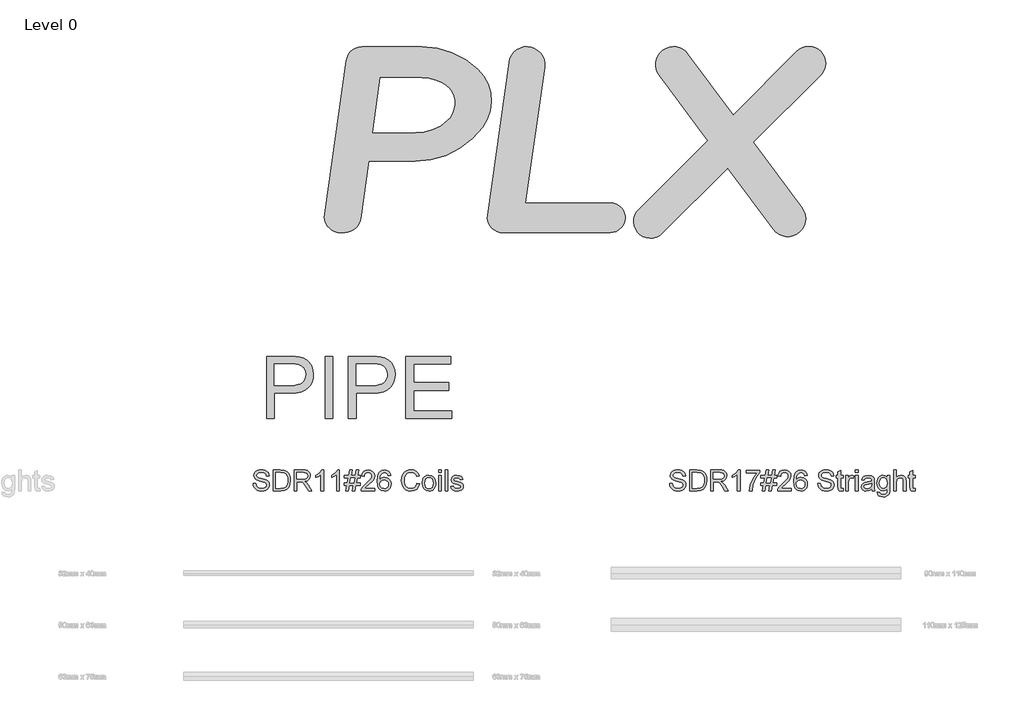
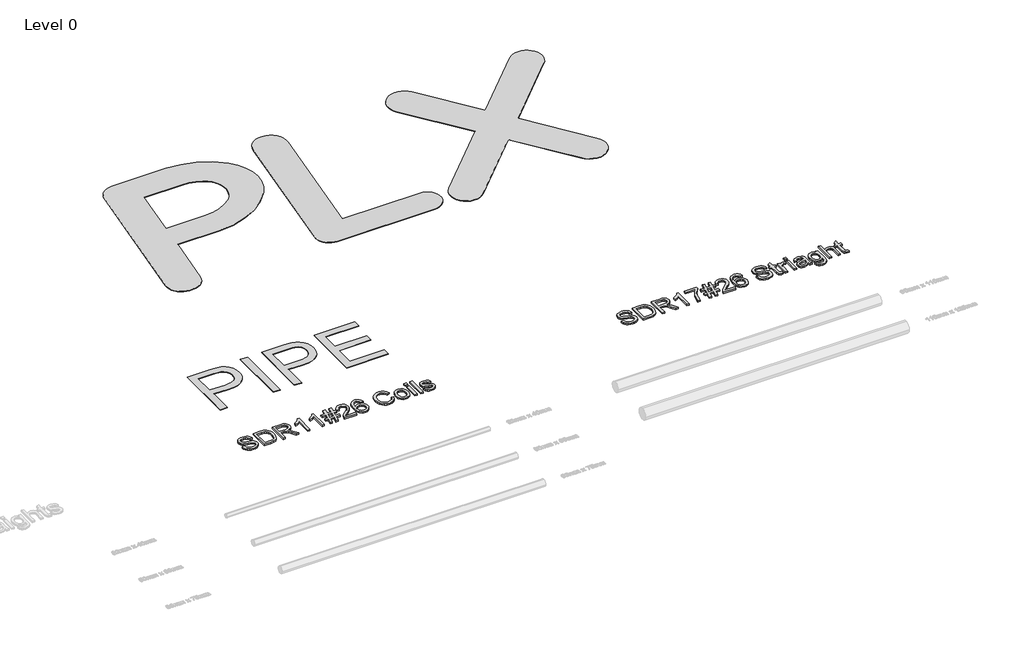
# One storey, part 21 of 21: 4 proxies.
"""IFC4 building model written with IfcOpenShell, lengths in millimetres."""

from ifc_helpers import new_model, si_unit, origin, origin_with_axes, place, context, project, spatial, polyline, outline, extrude, transform, mapped, element, save
from components import generic_models_3887f2f6

model = new_model("IFC4")

# Units and contexts
model_context = context("Model", 3, world=origin())
ifc_project = project(units=[si_unit("LENGTHUNIT", "METRE", prefix="MILLI")], contexts=[model_context])

# Site, building, storey
site = spatial("IfcSite", under=ifc_project)
building = spatial("IfcBuilding", under=site)
storey = spatial("IfcBuildingStorey", under=building, Name="Level 0", Elevation=0.0)

# Proxies
placement = place(None, origin())
generic_models_shape = generic_models_3887f2f6(model_context)
element("IfcBuildingElementProxy", 1, Name="lOGO : lOGO", ObjectType="lOGO : lOGO", at=placement, inside=storey, context=model_context, shape_type="MappedRepresentation", body=[
    mapped(generic_models_shape, transform((0.0, 0.0, 0.0), x_axis=(1.0, 0.0, 0.0), y_axis=(0.0, 1.0, 0.0), z_axis=(0.0, 0.0, 1.0))),
])
element("IfcBuildingElementProxy", 2, Name="200mm Arial", ObjectType="200mm Arial", at=placement, inside=storey, context=model_context, shape_type="SweptSolid", body=[
    extrude(outline(polyline([(-7456.9183389, 4215.8524501), (-7431.8042614, 4215.8524501), (-7423.7108575, 4190.7138471), (-7415.5806654, 4181.8233656), (-7403.9433316, 4174.8213449), (-7389.7185612, 4170.2780023), (-7373.826059, 4168.7635548), (-7347.58381, 4173.349817), (-7330.6367127, 4185.9559067), (-7325.0694319, 4202.804902), (-7329.2387612, 4218.476675), (-7335.5908569, 4224.6754867), (-7346.3084857, 4229.8810169), (-7382.875956, 4239.4704742), (-7422.2393295, 4251.8558347), (-7434.741186, 4260.3048579), (-7443.6010107, 4270.5442401), (-7448.8801173, 4282.3532521), (-7450.6398196, 4295.5111648), (-7448.4631844, 4310.2203133), (-7441.933279, 4323.9361803), (-7431.2217816, 4335.5612514), (-7416.5003704, 4343.9980118), (-7398.8297719, 4349.1299656), (-7379.2707125, 4350.8406169), (-7358.0807096, 4349.0502579), (-7339.539457, 4343.6791807), (-7324.3091424, 4334.8377501), (-7313.0519534, 4322.6363306), (-7305.9273054, 4307.8352117), (-7303.094614, 4291.1946827), (-7328.2086916, 4291.1946827), (-7332.8194792, 4306.1797427), (-7342.433462, 4316.9954733), (-7357.4553102, 4323.5437729), (-7378.2896938, 4325.7265394), (-7399.6145868, 4323.5682983), (-7414.2440275, 4317.0935752), (-7422.7053134, 4307.5654315), (-7425.525742, 4296.2469288), (-7423.5269165, 4286.5961578), (-7417.53044, 4278.8338477), (-7403.3547204, 4271.8931407), (-7376.5238603, 4264.805281), (-7332.0837152, 4252.1991913), (-7317.7669743, 4243.0879805), (-7307.7789781, 4231.8430542), (-7301.9112603, 4218.5870396), (-7299.9553543, 4203.4425642), (-7302.2055659, 4187.9608635), (-7308.9562005, 4173.3988679), (-7319.9313467, 4160.8663546), (-7334.8550929, 4151.473101), (-7352.8016029, 4145.6053832), (-7372.8450403, 4143.6494772), (-7397.4502144, 4145.7586673), (-7417.7021183, 4152.0862376), (-7433.8337437, 4162.6567136), (-7446.0780828, 4177.4946208), (-7453.9384948, 4195.5698895), (-7456.9183389, 4215.8524501)])), origin_with_axes(), (0.0, 0.0, 1.0), 15.0),
    extrude(outline(polyline([(-7262.284238, 4146.7887369), (-7262.284238, 4347.7013572), (-7192.9752701, 4347.7013572), (-7157.1190383, 4344.8073522), (-7141.1039088, 4339.2278086), (-7127.5903769, 4330.4354289), (-7113.6967002, 4315.1315379), (-7103.8006745, 4296.099776), (-7097.8777744, 4273.7080252), (-7095.9034743, 4248.3241676), (-7101.250026, 4207.7835717), (-7114.9842872, 4178.5246904), (-7133.329336, 4160.3022689), (-7157.3397675, 4150.2223022), (-7189.6398067, 4146.7887369), (-7262.284238, 4146.7887369)]), holes=[polyline([(-7237.1701605, 4171.9028144), (-7192.7300155, 4171.9028144), (-7160.4054508, 4175.5325835), (-7141.7660964, 4185.7842284), (-7133.0411618, 4196.6551414), (-7126.4867309, 4210.7266277), (-7122.3848466, 4228.060001), (-7121.0175519, 4248.716575), (-7123.6969591, 4276.0869955), (-7131.7351807, 4296.2959797), (-7143.6116378, 4310.1773937), (-7157.8057514, 4318.5651032), (-7193.4167285, 4322.5872797), (-7237.1701605, 4322.5872797), (-7237.1701605, 4171.9028144)])]), origin_with_axes(), (0.0, 0.0, 1.0), 15.0),
    extrude(outline(polyline([(-7061.3716177, 4146.7887369), (-7061.3716177, 4347.7013572), (-6974.7967215, 4347.7013572), (-6951.5281853, 4346.3463252), (-6934.5994822, 4342.2812291), (-6922.2263844, 4334.7764364), (-6912.6246643, 4323.1023145), (-6906.4626409, 4308.626158), (-6904.4086331, 4292.7152617), (-6907.8115416, 4272.9232103), (-6918.0202669, 4256.5156733), (-6935.3413775, 4244.4859321), (-6960.0814417, 4237.827268), (-6945.8076203, 4227.0851137), (-6925.4514832, 4201.2352722), (-6891.9496962, 4146.7887369), (-6921.1350012, 4146.7887369), (-6947.2791483, 4188.4329788), (-6966.1637574, 4215.9996029), (-6979.4320347, 4229.0226256), (-6991.3759368, 4233.8050915), (-7005.9440638, 4234.6880083), (-7036.2575402, 4234.6880083), (-7036.2575402, 4146.7887369), (-7061.3716177, 4146.7887369)]), holes=[polyline([(-7036.2575402, 4259.8020858), (-6980.0451713, 4259.8020858), (-6951.3749012, 4263.3582784), (-6941.9448594, 4267.9813289), (-6935.0899915, 4274.7380948), (-6929.5227107, 4291.7832939), (-6932.1775924, 4304.0337644), (-6940.1422376, 4313.9052646), (-6953.8458419, 4320.4167759), (-6973.717601, 4322.5872797), (-7036.2575402, 4322.5872797), (-7036.2575402, 4259.8020858)])]), origin_with_axes(), (0.0, 0.0, 1.0), 15.0),
    extrude(outline(polyline([(-6775.6989857, 4146.7887369), (-6800.8130633, 4146.7887369), (-6800.8130633, 4303.3593141), (-6824.6027656, 4286.4122168), (-6851.0412184, 4273.7325507), (-6851.0412184, 4297.4732021), (-6814.2284934, 4320.9685989), (-6800.757881, 4334.5434445), (-6791.8857935, 4347.7013572), (-6775.6989857, 4347.7013572), (-6775.6989857, 4146.7887369)])), origin_with_axes(), (0.0, 0.0, 1.0), 15.0),
    extrude(outline(polyline([(-6621.8752608, 4146.7887369), (-6646.9893384, 4146.7887369), (-6646.9893384, 4303.3593141), (-6670.7790407, 4286.4122168), (-6697.2174934, 4273.7325507), (-6697.2174934, 4297.4732021), (-6660.4047685, 4320.9685989), (-6646.9341561, 4334.5434445), (-6638.0620686, 4347.7013572), (-6621.8752608, 4347.7013572), (-6621.8752608, 4146.7887369)])), origin_with_axes(), (0.0, 0.0, 1.0), 15.0),
    extrude(outline(polyline([(-6562.2293267, 4146.7887369), (-6551.3890705, 4200.1561517), (-6574.7863654, 4200.1561517), (-6574.7863654, 4225.2702292), (-6546.2877735, 4225.2702292), (-6537.3605038, 4269.2198649), (-6574.7863654, 4269.2198649), (-6574.7863654, 4294.3339424), (-6532.2592068, 4294.3339424), (-6521.4189507, 4347.7013572), (-6495.9615166, 4347.7013572), (-6506.8017727, 4294.3339424), (-6469.8664204, 4294.3339424), (-6459.0261643, 4347.7013572), (-6433.5196793, 4347.7013572), (-6444.3599354, 4294.3339424), (-6420.9626405, 4294.3339424), (-6420.9626405, 4269.2198649), (-6449.4612324, 4269.2198649), (-6458.3885022, 4225.2702292), (-6420.9626405, 4225.2702292), (-6420.9626405, 4200.1561517), (-6463.4897992, 4200.1561517), (-6474.3300553, 4146.7887369), (-6499.8365403, 4146.7887369), (-6488.9962842, 4200.1561517), (-6525.8825855, 4200.1561517), (-6536.7228417, 4146.7887369), (-6562.2293267, 4146.7887369)]), holes=[polyline([(-6520.7812886, 4225.2702292), (-6483.8949872, 4225.2702292), (-6474.9677174, 4269.2198649), (-6511.9030697, 4269.2198649), (-6520.7812886, 4225.2702292)])]), origin_with_axes(), (0.0, 0.0, 1.0), 15.0),
    extrude(outline(polyline([(-6279.6959544, 4171.9028144), (-6279.6959544, 4146.7887369), (-6411.5448614, 4146.7887369), (-6408.8470602, 4164.1037161), (-6393.5922201, 4190.7628981), (-6362.1505722, 4219.8746266), (-6318.7895477, 4261.7150722), (-6310.6593556, 4276.1360464), (-6307.9492916, 4290.1646132), (-6310.5060715, 4302.740046), (-6318.1764111, 4313.1940261), (-6329.967029, 4320.2389663), (-6344.8846439, 4322.5872797), (-6360.5502856, 4320.2941486), (-6372.7210482, 4313.4147553), (-6380.5753288, 4302.48866), (-6383.2915242, 4288.0554231), (-6408.4056018, 4291.1946827), (-6402.3171547, 4315.4871572), (-6389.1531107, 4333.2313321), (-6369.6001826, 4344.0838509), (-6344.3450837, 4347.7013572), (-6318.9060437, 4343.6791807), (-6299.3899039, 4331.6126513), (-6286.9738865, 4313.5864335), (-6282.8352141, 4291.6851921), (-6287.2988489, 4267.8709643), (-6302.1367561, 4243.247396), (-6338.1156152, 4208.8381668), (-6367.0066146, 4184.6805824), (-6378.33738, 4171.9028144), (-6279.6959544, 4171.9028144)])), origin_with_axes(), (0.0, 0.0, 1.0), 15.0),
    extrude(outline(polyline([(-6125.8722295, 4294.3339424), (-6150.986307, 4291.1946827), (-6160.5021879, 4312.139431), (-6171.8942671, 4319.9753175), (-6185.6653164, 4322.5872797), (-6208.3268473, 4316.504964), (-6217.7630205, 4306.8971126), (-6225.4701483, 4293.6717549), (-6230.6756785, 4274.9649554), (-6232.607059, 4248.9127788), (-6222.5332237, 4260.6666085), (-6210.4605629, 4268.9500848), (-6197.0635269, 4273.8613094), (-6183.016566, 4275.4983843), (-6159.8154749, 4271.0224867), (-6140.3422546, 4257.5947939), (-6127.135291, 4237.0792413), (-6122.7329698, 4211.3397643), (-6124.8053717, 4193.3564661), (-6131.0225774, 4176.6852804), (-6140.8695521, 4162.546349), (-6153.8312611, 4152.159814), (-6169.3190931, 4145.7770614), (-6186.7444369, 4143.6494772), (-6215.2368975, 4149.2903345), (-6237.9290852, 4166.2129063), (-6246.5881077, 4179.321768), (-6252.7731237, 4196.0849243), (-6257.7211365, 4240.5741202), (-6252.2274321, 4290.5938088), (-6245.3603015, 4309.671556), (-6235.7463187, 4324.7945716), (-6225.3260612, 4334.8162903), (-6213.2442033, 4341.9746608), (-6184.0956866, 4347.7013572), (-6162.0595551, 4344.1574273), (-6144.413482, 4333.5256377), (-6132.052647, 4316.6398541), (-6125.8722295, 4294.3339424)]), holes=[polyline([(-6232.607059, 4211.7321718), (-6226.7945235, 4189.9780831), (-6211.3434797, 4174.1836828), (-6188.7064742, 4168.7635548), (-6172.1333904, 4171.5717207), (-6159.1042364, 4179.9962183), (-6150.6613446, 4193.2399702), (-6147.8470473, 4210.5058985), (-6150.6245564, 4227.0789824), (-6158.9570836, 4239.7157289), (-6172.2069668, 4247.7171623), (-6189.7365438, 4250.3843068), (-6206.2851022, 4247.7171623), (-6220.1235966, 4239.7157289), (-6229.4861934, 4227.3855507), (-6232.607059, 4211.7321718)])]), origin_with_axes(), (0.0, 0.0, 1.0), 15.0),
    extrude(outline(polyline([(-5871.5921944, 4218.2068949), (-5846.4781169, 4211.7321718), (-5858.0663997, 4182.4671591), (-5876.252033, 4161.0870838), (-5900.1398372, 4148.0088789), (-5928.8346328, 4143.6494772), (-5957.9647555, 4146.9481524), (-5981.0984016, 4156.8441781), (-5998.8303138, 4172.9941977), (-6011.7552346, 4195.0548547), (-6019.6463034, 4220.9905353), (-6022.2766596, 4248.765626), (-6019.3029468, 4278.0612955), (-6010.3818084, 4303.3593141), (-5995.9792283, 4323.8564726), (-5976.5611904, 4338.749562), (-5953.5317775, 4347.8178532), (-5928.2950726, 4350.8406169), (-5900.7591052, 4346.928805), (-5877.9933411, 4335.1933694), (-5860.7090187, 4316.3578112), (-5849.6173765, 4291.1456318), (-5874.7314541, 4285.161418), (-5883.4379946, 4303.47581), (-5895.3328458, 4316.0389802), (-5910.5631604, 4323.3046496), (-5929.2760912, 4325.7265394), (-5950.8462389, 4323.0410008), (-5968.5658883, 4314.9843851), (-5982.0119752, 4302.4028209), (-5990.7614354, 4286.1424367), (-5995.5622954, 4267.7605997), (-5997.1625821, 4248.8146769), (-5995.2679898, 4225.6135857), (-5989.584213, 4205.5517543), (-5979.8966538, 4189.3956033), (-5965.9907144, 4177.9115537), (-5949.3195286, 4171.0505545), (-5931.3362304, 4168.7635548), (-5910.3730881, 4171.878289), (-5892.9048246, 4181.2224917), (-5879.7162551, 4196.6980609), (-5871.5921944, 4218.2068949)])), origin_with_axes(), (0.0, 0.0, 1.0), 15.0),
    extrude(outline(polyline([(-5821.3640393, 4220.5613397), (-5815.9316485, 4256.1355286), (-5809.14116, 4269.9586946), (-5799.6344761, 4281.1392415), (-5779.4990683, 4293.389712), (-5755.3905349, 4297.4732021), (-5729.0072644, 4292.5006638), (-5707.9337575, 4277.5830489), (-5694.1197886, 4253.8975798), (-5689.5151322, 4222.6214788), (-5691.550746, 4197.2498839), (-5697.6575871, 4177.9360792), (-5707.657846, 4163.4721854), (-5721.373713, 4152.6503234), (-5737.6647541, 4145.8996888), (-5755.3905349, 4143.6494772), (-5782.0926363, 4148.6036214), (-5803.1416178, 4163.466054), (-5816.8084339, 4187.6481638), (-5821.3640393, 4220.5613397)]), holes=[polyline([(-5796.2499618, 4220.6103906), (-5793.343694, 4197.8814147), (-5784.6248907, 4181.6884755), (-5771.5037662, 4171.9947849), (-5755.3905349, 4168.7635548), (-5739.3508799, 4172.013179), (-5726.2542808, 4181.7620519), (-5717.5354775, 4198.1695889), (-5714.6292098, 4221.3952055), (-5717.5538716, 4243.4619939), (-5726.3278572, 4259.4342038), (-5739.4428504, 4269.1278944), (-5755.3905349, 4272.3591246), (-5771.5037662, 4269.1401571), (-5784.6248907, 4259.4832548), (-5793.343694, 4243.3271038), (-5796.2499618, 4220.6103906)])]), origin_with_axes(), (0.0, 0.0, 1.0), 15.0),
    extrude(outline(polyline([(-5661.261795, 4146.7887369), (-5661.261795, 4294.3339424), (-5636.1477175, 4294.3339424), (-5636.1477175, 4146.7887369), (-5661.261795, 4146.7887369)])), origin_with_axes(), (0.0, 0.0, 1.0), 15.0),
    extrude(outline(polyline([(-5661.261795, 4322.5872797), (-5661.261795, 4347.7013572), (-5636.1477175, 4347.7013572), (-5636.1477175, 4322.5872797), (-5661.261795, 4322.5872797)])), origin_with_axes(), (0.0, 0.0, 1.0), 15.0),
    extrude(outline(polyline([(-5598.4766012, 4146.7887369), (-5598.4766012, 4347.7013572), (-5573.3625236, 4347.7013572), (-5573.3625236, 4146.7887369), (-5598.4766012, 4146.7887369)])), origin_with_axes(), (0.0, 0.0, 1.0), 15.0),
    extrude(outline(polyline([(-5545.1091864, 4190.7383726), (-5519.9951089, 4193.8776323), (-5516.0342461, 4183.135478), (-5508.3700378, 4175.2382779), (-5496.9534332, 4170.3822355), (-5481.7353814, 4168.7635548), (-5466.7012705, 4170.2473455), (-5456.1307945, 4174.6987176), (-5449.8768006, 4181.1489153), (-5447.792136, 4188.6291825), (-5449.8890633, 4195.0303292), (-5456.1798454, 4199.910897), (-5482.029687, 4207.0723332), (-5519.8479561, 4219.3595918), (-5529.4190193, 4225.533878), (-5536.3535949, 4233.7069896), (-5541.9699267, 4253.9650248), (-5537.4572409, 4272.6779557), (-5525.1454568, 4286.9763025), (-5509.1793782, 4294.4075188), (-5487.5724424, 4297.4732021), (-5457.0137113, 4292.5435834), (-5445.584844, 4286.7433106), (-5437.589542, 4279.2017297), (-5428.9565778, 4256.6628261), (-5454.0706553, 4253.5235664), (-5457.2405719, 4261.426898), (-5463.5129599, 4267.3804549), (-5485.6104051, 4272.3591246), (-5500.0313793, 4271.1696395), (-5509.6453621, 4267.6011841), (-5515.0532274, 4262.4508362), (-5516.8558492, 4256.5156733), (-5513.8637423, 4249.2070844), (-5504.4950141, 4243.664329), (-5482.8635528, 4238.3177773), (-5446.0017769, 4226.4965025), (-5428.8830014, 4213.1055979), (-5424.2292942, 4203.2586232), (-5422.6780584, 4191.2779329), (-5424.4990743, 4178.8925724), (-5429.9621219, 4167.2429758), (-5438.8587348, 4157.2427169), (-5450.9804466, 4149.8053693), (-5465.62215, 4145.1884502), (-5482.0787379, 4143.6494772), (-5507.4012819, 4146.6170586), (-5525.8812208, 4155.5198029), (-5538.2175304, 4170.2596082), (-5545.1091864, 4190.7383726)])), origin_with_axes(), (0.0, 0.0, 1.0), 15.0),
])
element("IfcBuildingElementProxy", 3, Name="200mm Arial", ObjectType="200mm Arial", at=placement, inside=storey, context=model_context, shape_type="SweptSolid", body=[
    extrude(outline(polyline([(-3426.4383623, 4215.8524501), (-3401.3242848, 4215.8524501), (-3393.2308809, 4190.7138471), (-3385.1006888, 4181.8233656), (-3373.463355, 4174.8213449), (-3359.2385845, 4170.2780023), (-3343.3460823, 4168.7635548), (-3317.1038334, 4173.349817), (-3300.1567361, 4185.9559067), (-3294.5894552, 4202.804902), (-3298.7587845, 4218.476675), (-3305.1108803, 4224.6754867), (-3315.8285091, 4229.8810169), (-3352.3959794, 4239.4704742), (-3391.7593529, 4251.8558347), (-3404.2612094, 4260.3048579), (-3413.1210341, 4270.5442401), (-3418.4001407, 4282.3532521), (-3420.1598429, 4295.5111648), (-3417.9832078, 4310.2203133), (-3411.4533024, 4323.9361803), (-3400.741805, 4335.5612514), (-3386.0203938, 4343.9980118), (-3368.3497953, 4349.1299656), (-3348.7907359, 4350.8406169), (-3327.600733, 4349.0502579), (-3309.0594804, 4343.6791807), (-3293.8291658, 4334.8377501), (-3282.5719767, 4322.6363306), (-3275.4473288, 4307.8352117), (-3272.6146374, 4291.1946827), (-3297.7287149, 4291.1946827), (-3302.3395026, 4306.1797427), (-3311.9534854, 4316.9954733), (-3326.9753336, 4323.5437729), (-3347.8097172, 4325.7265394), (-3369.1346102, 4323.5682983), (-3383.7640509, 4317.0935752), (-3392.2253368, 4307.5654315), (-3395.0457654, 4296.2469288), (-3393.0469399, 4286.5961578), (-3387.0504634, 4278.8338477), (-3372.8747438, 4271.8931407), (-3346.0438836, 4264.805281), (-3301.6037386, 4252.1991913), (-3287.2869976, 4243.0879805), (-3277.2990015, 4231.8430542), (-3271.4312837, 4218.5870396), (-3269.4753777, 4203.4425642), (-3271.7255892, 4187.9608635), (-3278.4762239, 4173.3988679), (-3289.4513701, 4160.8663546), (-3304.3751163, 4151.473101), (-3322.3216263, 4145.6053832), (-3342.3650637, 4143.6494772), (-3366.9702378, 4145.7586673), (-3387.2221416, 4152.0862376), (-3403.3537671, 4162.6567136), (-3415.5981062, 4177.4946208), (-3423.4585182, 4195.5698895), (-3426.4383623, 4215.8524501)])), origin_with_axes(), (0.0, 0.0, 1.0), 15.0),
    extrude(outline(polyline([(-3231.8042614, 4146.7887369), (-3231.8042614, 4347.7013572), (-3162.4952935, 4347.7013572), (-3126.6390617, 4344.8073522), (-3110.6239322, 4339.2278086), (-3097.1104002, 4330.4354289), (-3083.2167236, 4315.1315379), (-3073.3206979, 4296.099776), (-3067.3977978, 4273.7080252), (-3065.4234977, 4248.3241676), (-3070.7700494, 4207.7835717), (-3084.5043105, 4178.5246904), (-3102.8493594, 4160.3022689), (-3126.8597909, 4150.2223022), (-3159.1598301, 4146.7887369), (-3231.8042614, 4146.7887369)]), holes=[polyline([(-3206.6901839, 4171.9028144), (-3162.2500389, 4171.9028144), (-3129.9254742, 4175.5325835), (-3111.2861198, 4185.7842284), (-3102.5611851, 4196.6551414), (-3096.0067543, 4210.7266277), (-3091.90487, 4228.060001), (-3090.5375753, 4248.716575), (-3093.2169825, 4276.0869955), (-3101.2552041, 4296.2959797), (-3113.1316611, 4310.1773937), (-3127.3257748, 4318.5651032), (-3162.9367519, 4322.5872797), (-3206.6901839, 4322.5872797), (-3206.6901839, 4171.9028144)])]), origin_with_axes(), (0.0, 0.0, 1.0), 15.0),
    extrude(outline(polyline([(-3030.8916411, 4146.7887369), (-3030.8916411, 4347.7013572), (-2944.3167449, 4347.7013572), (-2921.0482087, 4346.3463252), (-2904.1195056, 4342.2812291), (-2891.7464078, 4334.7764364), (-2882.1446877, 4323.1023145), (-2875.9826643, 4308.626158), (-2873.9286565, 4292.7152617), (-2877.331565, 4272.9232103), (-2887.5402903, 4256.5156733), (-2904.8614009, 4244.4859321), (-2929.6014651, 4237.827268), (-2915.3276437, 4227.0851137), (-2894.9715066, 4201.2352722), (-2861.4697196, 4146.7887369), (-2890.6550245, 4146.7887369), (-2916.7991717, 4188.4329788), (-2935.6837808, 4215.9996029), (-2948.952058, 4229.0226256), (-2960.8959602, 4233.8050915), (-2975.4640872, 4234.6880083), (-3005.7775636, 4234.6880083), (-3005.7775636, 4146.7887369), (-3030.8916411, 4146.7887369)]), holes=[polyline([(-3005.7775636, 4259.8020858), (-2949.5651947, 4259.8020858), (-2920.8949245, 4263.3582784), (-2911.4648827, 4267.9813289), (-2904.6100149, 4274.7380948), (-2899.042734, 4291.7832939), (-2901.6976158, 4304.0337644), (-2909.662261, 4313.9052646), (-2923.3658653, 4320.4167759), (-2943.2376244, 4322.5872797), (-3005.7775636, 4322.5872797), (-3005.7775636, 4259.8020858)])]), origin_with_axes(), (0.0, 0.0, 1.0), 15.0),
    extrude(outline(polyline([(-2745.2190091, 4146.7887369), (-2770.3330867, 4146.7887369), (-2770.3330867, 4303.3593141), (-2794.122789, 4286.4122168), (-2820.5612417, 4273.7325507), (-2820.5612417, 4297.4732021), (-2783.7485167, 4320.9685989), (-2770.2779044, 4334.5434445), (-2761.4058169, 4347.7013572), (-2745.2190091, 4347.7013572), (-2745.2190091, 4146.7887369)])), origin_with_axes(), (0.0, 0.0, 1.0), 15.0),
    extrude(outline(polyline([(-2685.573075, 4319.44802), (-2685.573075, 4344.5620975), (-2553.7241679, 4344.5620975), (-2553.7241679, 4324.2550114), (-2572.5168065, 4300.4714404), (-2591.1255041, 4270.225409), (-2607.5391724, 4236.2760322), (-2619.7467233, 4201.382425), (-2629.0664005, 4146.7887369), (-2654.180478, 4146.7887369), (-2651.4642826, 4172.6753666), (-2644.1986132, 4203.4425642), (-2632.5796736, 4236.055303), (-2616.8036673, 4267.4785568), (-2598.3850421, 4295.8851782), (-2578.8382454, 4319.44802), (-2685.573075, 4319.44802)])), origin_with_axes(), (0.0, 0.0, 1.0), 15.0),
    extrude(outline(polyline([(-2531.7493501, 4146.7887369), (-2520.9090939, 4200.1561517), (-2544.3063888, 4200.1561517), (-2544.3063888, 4225.2702292), (-2515.8077969, 4225.2702292), (-2506.8805272, 4269.2198649), (-2544.3063888, 4269.2198649), (-2544.3063888, 4294.3339424), (-2501.7792302, 4294.3339424), (-2490.9389741, 4347.7013572), (-2465.48154, 4347.7013572), (-2476.3217961, 4294.3339424), (-2439.3864438, 4294.3339424), (-2428.5461877, 4347.7013572), (-2403.0397027, 4347.7013572), (-2413.8799588, 4294.3339424), (-2390.4826639, 4294.3339424), (-2390.4826639, 4269.2198649), (-2418.9812558, 4269.2198649), (-2427.9085255, 4225.2702292), (-2390.4826639, 4225.2702292), (-2390.4826639, 4200.1561517), (-2433.0098225, 4200.1561517), (-2443.8500787, 4146.7887369), (-2469.3565637, 4146.7887369), (-2458.5163075, 4200.1561517), (-2495.4026089, 4200.1561517), (-2506.2428651, 4146.7887369), (-2531.7493501, 4146.7887369)]), holes=[polyline([(-2490.3013119, 4225.2702292), (-2453.4150105, 4225.2702292), (-2444.4877408, 4269.2198649), (-2481.4230931, 4269.2198649), (-2490.3013119, 4225.2702292)])]), origin_with_axes(), (0.0, 0.0, 1.0), 15.0),
    extrude(outline(polyline([(-2249.2159778, 4171.9028144), (-2249.2159778, 4146.7887369), (-2381.0648848, 4146.7887369), (-2378.3670835, 4164.1037161), (-2363.1122435, 4190.7628981), (-2331.6705956, 4219.8746266), (-2288.3095711, 4261.7150722), (-2280.179379, 4276.1360464), (-2277.469315, 4290.1646132), (-2280.0260949, 4302.740046), (-2287.6964345, 4313.1940261), (-2299.4870524, 4320.2389663), (-2314.4046673, 4322.5872797), (-2330.0703089, 4320.2941486), (-2342.2410716, 4313.4147553), (-2350.0953522, 4302.48866), (-2352.8115476, 4288.0554231), (-2377.9256251, 4291.1946827), (-2371.8371781, 4315.4871572), (-2358.6731341, 4333.2313321), (-2339.120206, 4344.0838509), (-2313.865107, 4347.7013572), (-2288.4260671, 4343.6791807), (-2268.9099272, 4331.6126513), (-2256.4939099, 4313.5864335), (-2252.3552374, 4291.6851921), (-2256.8188723, 4267.8709643), (-2271.6567795, 4243.247396), (-2307.6356386, 4208.8381668), (-2336.5266379, 4184.6805824), (-2347.8574034, 4171.9028144), (-2249.2159778, 4171.9028144)])), origin_with_axes(), (0.0, 0.0, 1.0), 15.0),
    extrude(outline(polyline([(-2095.3922528, 4294.3339424), (-2120.5063304, 4291.1946827), (-2130.0222113, 4312.139431), (-2141.4142904, 4319.9753175), (-2155.1853398, 4322.5872797), (-2177.8468707, 4316.504964), (-2187.2830439, 4306.8971126), (-2194.9901717, 4293.6717549), (-2200.1957019, 4274.9649554), (-2202.1270824, 4248.9127788), (-2192.0532471, 4260.6666085), (-2179.9805863, 4268.9500848), (-2166.5835503, 4273.8613094), (-2152.5365894, 4275.4983843), (-2129.3354983, 4271.0224867), (-2109.862278, 4257.5947939), (-2096.6553144, 4237.0792413), (-2092.2529931, 4211.3397643), (-2094.3253951, 4193.3564661), (-2100.5426008, 4176.6852804), (-2110.3895755, 4162.546349), (-2123.3512845, 4152.159814), (-2138.8391165, 4145.7770614), (-2156.2644603, 4143.6494772), (-2184.7569208, 4149.2903345), (-2207.4491086, 4166.2129063), (-2216.108131, 4179.321768), (-2222.2931471, 4196.0849243), (-2227.2411599, 4240.5741202), (-2221.7474554, 4290.5938088), (-2214.8803249, 4309.671556), (-2205.2663421, 4324.7945716), (-2194.8460846, 4334.8162903), (-2182.7642267, 4341.9746608), (-2153.6157099, 4347.7013572), (-2131.5795784, 4344.1574273), (-2113.9335054, 4333.5256377), (-2101.5726704, 4316.6398541), (-2095.3922528, 4294.3339424)]), holes=[polyline([(-2202.1270824, 4211.7321718), (-2196.3145468, 4189.9780831), (-2180.8635031, 4174.1836828), (-2158.2264976, 4168.7635548), (-2141.6534137, 4171.5717207), (-2128.6242597, 4179.9962183), (-2120.1813679, 4193.2399702), (-2117.3670707, 4210.5058985), (-2120.1445797, 4227.0789824), (-2128.4771069, 4239.7157289), (-2141.7269901, 4247.7171623), (-2159.2565672, 4250.3843068), (-2175.8051256, 4247.7171623), (-2189.64362, 4239.7157289), (-2199.0062168, 4227.3855507), (-2202.1270824, 4211.7321718)])]), origin_with_axes(), (0.0, 0.0, 1.0), 15.0),
    extrude(outline(polyline([(-1991.796683, 4215.8524501), (-1966.6826055, 4215.8524501), (-1958.5892016, 4190.7138471), (-1950.4590095, 4181.8233656), (-1938.8216757, 4174.8213449), (-1924.5969052, 4170.2780023), (-1908.704403, 4168.7635548), (-1882.462154, 4173.349817), (-1865.5150568, 4185.9559067), (-1859.9477759, 4202.804902), (-1864.1171052, 4218.476675), (-1870.469201, 4224.6754867), (-1881.1868298, 4229.8810169), (-1917.7543001, 4239.4704742), (-1957.1176736, 4251.8558347), (-1969.6195301, 4260.3048579), (-1978.4793548, 4270.5442401), (-1983.7584614, 4282.3532521), (-1985.5181636, 4295.5111648), (-1983.3415285, 4310.2203133), (-1976.8116231, 4323.9361803), (-1966.1001256, 4335.5612514), (-1951.3787145, 4343.9980118), (-1933.708116, 4349.1299656), (-1914.1490565, 4350.8406169), (-1892.9590536, 4349.0502579), (-1874.4178011, 4343.6791807), (-1859.1874865, 4334.8377501), (-1847.9302974, 4322.6363306), (-1840.8056494, 4307.8352117), (-1837.9729581, 4291.1946827), (-1863.0870356, 4291.1946827), (-1867.6978233, 4306.1797427), (-1877.3118061, 4316.9954733), (-1892.3336542, 4323.5437729), (-1913.1680379, 4325.7265394), (-1934.4929309, 4323.5682983), (-1949.1223716, 4317.0935752), (-1957.5836574, 4307.5654315), (-1960.4040861, 4296.2469288), (-1958.4052606, 4286.5961578), (-1952.408784, 4278.8338477), (-1938.2330645, 4271.8931407), (-1911.4022043, 4264.805281), (-1866.9620593, 4252.1991913), (-1852.6453183, 4243.0879805), (-1842.6573222, 4231.8430542), (-1836.7896043, 4218.5870396), (-1834.8336984, 4203.4425642), (-1837.0839099, 4187.9608635), (-1843.8345445, 4173.3988679), (-1854.8096907, 4160.8663546), (-1869.733437, 4151.473101), (-1887.679947, 4145.6053832), (-1907.7233844, 4143.6494772), (-1932.3285585, 4145.7586673), (-1952.5804623, 4152.0862376), (-1968.7120878, 4162.6567136), (-1980.9564269, 4177.4946208), (-1988.8168388, 4195.5698895), (-1991.796683, 4215.8524501)])), origin_with_axes(), (0.0, 0.0, 1.0), 15.0),
    extrude(outline(polyline([(-1746.934427, 4167.7334852), (-1743.7951673, 4146.0529729), (-1762.5816745, 4143.6494772), (-1783.6245247, 4147.8188065), (-1794.1214243, 4158.7571645), (-1797.1625821, 4187.2557564), (-1797.1625821, 4269.2198649), (-1815.9981402, 4269.2198649), (-1815.9981402, 4294.3339424), (-1797.1625821, 4294.3339424), (-1797.1625821, 4330.1901742), (-1772.0485045, 4344.954505), (-1772.0485045, 4294.3339424), (-1746.934427, 4294.3339424), (-1746.934427, 4269.2198649), (-1772.0485045, 4269.2198649), (-1772.0485045, 4187.9915204), (-1770.7241294, 4175.0420741), (-1766.4321728, 4170.4558119), (-1757.872785, 4168.7635548), (-1746.934427, 4167.7334852)])), origin_with_axes(), (0.0, 0.0, 1.0), 15.0),
    extrude(outline(polyline([(-1721.8203495, 4146.7887369), (-1721.8203495, 4294.3339424), (-1699.8455316, 4294.3339424), (-1699.8455316, 4272.5062774), (-1684.247335, 4292.6171598), (-1668.5510366, 4297.4732021), (-1656.0430487, 4295.5356903), (-1643.3388572, 4289.7231548), (-1651.7265667, 4267.2087767), (-1669.3849024, 4272.3591246), (-1683.5851474, 4267.4049804), (-1692.6350445, 4253.6707192), (-1696.7062719, 4224.3382615), (-1696.7062719, 4146.7887369), (-1721.8203495, 4146.7887369)])), origin_with_axes(), (0.0, 0.0, 1.0), 15.0),
    extrude(outline(polyline([(-1627.6425587, 4146.7887369), (-1627.6425587, 4294.3339424), (-1602.5284812, 4294.3339424), (-1602.5284812, 4146.7887369), (-1627.6425587, 4146.7887369)])), origin_with_axes(), (0.0, 0.0, 1.0), 15.0),
    extrude(outline(polyline([(-1627.6425587, 4322.5872797), (-1627.6425587, 4347.7013572), (-1602.5284812, 4347.7013572), (-1602.5284812, 4322.5872797), (-1627.6425587, 4322.5872797)])), origin_with_axes(), (0.0, 0.0, 1.0), 15.0),
    extrude(outline(polyline([(-1470.6795741, 4165.6242951), (-1495.0333622, 4148.6036214), (-1521.9377988, 4143.6494772), (-1542.9254666, 4146.6293214), (-1558.4071672, 4155.5688539), (-1567.953705, 4169.1436995), (-1571.1358842, 4186.0294831), (-1566.3288928, 4205.8951108), (-1553.6982777, 4220.316085), (-1536.1135183, 4228.5566417), (-1514.3839551, 4232.3335635), (-1470.8267269, 4240.9665277), (-1470.6795741, 4246.558334), (-1472.4086195, 4257.7664721), (-1477.5957556, 4265.0995866), (-1489.1963012, 4270.5442401), (-1505.3585835, 4272.3591246), (-1520.319118, 4271.1512454), (-1530.7669666, 4267.5276077), (-1537.8916146, 4260.826024), (-1542.882547, 4250.3843068), (-1567.9966246, 4253.5235664), (-1557.131843, 4278.0490328), (-1547.8734794, 4286.3018522), (-1535.255127, 4292.4209561), (-1502.121222, 4297.4732021), (-1471.6851182, 4293.0095673), (-1454.4927663, 4281.8014291), (-1446.7917699, 4264.75623), (-1445.5654966, 4242.7814122), (-1445.5654966, 4211.5359681), (-1444.2901723, 4167.9051634), (-1439.2869772, 4146.7887369), (-1464.4010547, 4146.7887369), (-1470.6795741, 4165.6242951)]), holes=[polyline([(-1470.6795741, 4215.8524501), (-1511.1956445, 4208.1514537), (-1532.8025803, 4204.0802263), (-1542.5882414, 4197.4583504), (-1546.0218067, 4187.7953166), (-1544.1517399, 4180.3273121), (-1538.5415395, 4174.2082083), (-1529.3138328, 4170.1247181), (-1516.5912471, 4168.7635548), (-1503.1022406, 4170.2657396), (-1491.182864, 4174.772294), (-1474.7998524, 4189.3158956), (-1470.8267269, 4208.7400649), (-1470.6795741, 4215.8524501)])]), origin_with_axes(), (0.0, 0.0, 1.0), 15.0),
    extrude(outline(polyline([(-1417.3121593, 4134.2316981), (-1392.1980818, 4131.0924384), (-1389.4267041, 4123.2442892), (-1384.055627, 4117.8486866), (-1373.4974137, 4113.6548319), (-1359.6773134, 4112.2568803), (-1344.9375081, 4113.8387729), (-1333.9746247, 4118.5844506), (-1326.3717301, 4126.1873452), (-1321.7118915, 4136.3408882), (-1319.9951089, 4165.6242951), (-1337.6779701, 4151.4976264), (-1359.235855, 4146.7887369), (-1385.1286161, 4152.2701786), (-1404.4362895, 4168.7145038), (-1416.4476366, 4192.8230372), (-1420.451419, 4221.2971037), (-1418.6549286, 4241.573533), (-1413.2654574, 4260.2190188), (-1404.4730777, 4276.0195504), (-1392.4678619, 4287.7611175), (-1377.6606116, 4295.045181), (-1360.4621283, 4297.4732021), (-1338.0581148, 4291.9794977), (-1319.9951089, 4275.4983843), (-1319.9951089, 4294.3339424), (-1294.8810313, 4294.3339424), (-1294.8810313, 4166.9486702), (-1296.597814, 4137.5365047), (-1301.7481619, 4118.1675177), (-1310.6202494, 4105.3223047), (-1323.5022506, 4095.4814613), (-1340.1121226, 4089.2274674), (-1360.1678227, 4087.1428028), (-1383.5344608, 4090.0797274), (-1401.9346919, 4098.8905011), (-1413.7375726, 4113.5996496), (-1417.3121593, 4134.2316981)]), holes=[polyline([(-1395.3373415, 4223.0138863), (-1392.6579343, 4199.978342), (-1384.6197127, 4184.1410222), (-1372.5347891, 4174.9623664), (-1357.7152761, 4171.9028144), (-1343.0061277, 4174.9439723), (-1330.8598905, 4184.0674458), (-1322.7113043, 4199.7024305), (-1319.9951089, 4222.2781223), (-1322.791012, 4244.0506051), (-1331.1787215, 4259.7285094), (-1343.5027684, 4269.2014708), (-1358.1076836, 4272.3591246), (-1372.44895, 4269.2505217), (-1384.4725599, 4259.9247132), (-1392.6211461, 4244.4798007), (-1395.3373415, 4223.0138863)])]), origin_with_axes(), (0.0, 0.0, 1.0), 15.0),
    extrude(outline(polyline([(-1257.209915, 4146.7887369), (-1257.209915, 4347.7013572), (-1232.0958375, 4347.7013572), (-1232.0958375, 4273.8306526), (-1212.5122526, 4291.5625647), (-1188.3914565, 4297.4732021), (-1173.2224555, 4295.8606527), (-1160.1871702, 4291.0230045), (-1149.9232625, 4283.3404022), (-1143.0683947, 4273.1929905), (-1139.2056337, 4259.2502628), (-1137.9180467, 4240.1817128), (-1137.9180467, 4146.7887369), (-1163.0321243, 4146.7887369), (-1163.0321243, 4237.5820133), (-1165.0309498, 4253.3028372), (-1171.0274263, 4264.069517), (-1180.69046, 4270.2867227), (-1193.6889572, 4272.3591246), (-1214.2658235, 4266.7673183), (-1222.5186429, 4260.1822306), (-1228.0000846, 4251.6105801), (-1232.0958375, 4225.1721273), (-1232.0958375, 4146.7887369), (-1257.209915, 4146.7887369)])), origin_with_axes(), (0.0, 0.0, 1.0), 15.0),
    extrude(outline(polyline([(-1050.0187753, 4167.7334852), (-1046.8795157, 4146.0529729), (-1065.6660229, 4143.6494772), (-1086.708873, 4147.8188065), (-1097.2057726, 4158.7571645), (-1100.2469304, 4187.2557564), (-1100.2469304, 4269.2198649), (-1119.0824886, 4269.2198649), (-1119.0824886, 4294.3339424), (-1100.2469304, 4294.3339424), (-1100.2469304, 4330.1901742), (-1075.1328529, 4344.954505), (-1075.1328529, 4294.3339424), (-1050.0187753, 4294.3339424), (-1050.0187753, 4269.2198649), (-1075.1328529, 4269.2198649), (-1075.1328529, 4187.9915204), (-1073.8084777, 4175.0420741), (-1069.5165211, 4170.4558119), (-1060.9571333, 4168.7635548), (-1050.0187753, 4167.7334852)])), origin_with_axes(), (0.0, 0.0, 1.0), 15.0),
])
element("IfcBuildingElementProxy", 4, Name="600mm Arial", ObjectType="600mm Arial", at=placement, inside=storey, context=model_context, shape_type="SweptSolid", body=[
    extrude(outline(polyline([(-7326.6390617, 4846.7887369), (-7326.6390617, 5449.5265978), (-7103.2611142, 5449.5265978), (-7051.2426001, 5448.091858), (-7013.2036018, 5443.7876387), (-6973.0492821, 5433.0638785), (-6939.9950848, 5415.6078779), (-6913.3788224, 5390.6286904), (-6892.5383074, 5357.3353698), (-6879.0738264, 5318.0639668), (-6874.585666, 5275.1505321), (-6877.616094, 5238.1508004), (-6886.7073778, 5204.1125188), (-6901.8595175, 5173.0356873), (-6923.072513, 5144.9203058), (-6952.1949715, 5121.6149814), (-6991.0754998, 5104.9683211), (-7039.7140981, 5094.980325), (-7098.1107663, 5091.6509929), (-7251.2968291, 5091.6509929), (-7251.2968291, 4846.7887369), (-7326.6390617, 4846.7887369)]), holes=[polyline([(-7251.2968291, 5166.9932255), (-7093.6961824, 5166.9932255), (-7057.4598058, 5168.7222709), (-7026.888812, 5173.909407), (-7001.983201, 5182.5546339), (-6982.7429726, 5194.6579515), (-6968.3863778, 5209.8974632), (-6958.1316671, 5227.9512721), (-6951.9788408, 5248.8193783), (-6949.9278987, 5272.5017817), (-6954.7655469, 5306.3469253), (-6969.2784916, 5334.8945681), (-6991.664111, 5356.3788766), (-7020.1197833, 5369.0340173), (-7049.182461, 5372.8967782), (-7095.4620159, 5374.1843652), (-7251.2968291, 5374.1843652), (-7251.2968291, 5166.9932255)])]), origin_with_axes(), (0.0, 0.0, 1.0), 5.0),
    extrude(outline(polyline([(-6761.5723171, 4846.7887369), (-6761.5723171, 5449.5265978), (-6686.2300845, 5449.5265978), (-6686.2300845, 4846.7887369), (-6761.5723171, 4846.7887369)])), origin_with_axes(), (0.0, 0.0, 1.0), 5.0),
    extrude(outline(polyline([(-6535.5456193, 4846.7887369), (-6535.5456193, 5449.5265978), (-6312.1676718, 5449.5265978), (-6260.1491577, 5448.091858), (-6222.1101594, 5443.7876387), (-6181.9558396, 5433.0638785), (-6148.9016424, 5415.6078779), (-6122.28538, 5390.6286904), (-6101.444865, 5357.3353698), (-6087.980384, 5318.0639668), (-6083.4922236, 5275.1505321), (-6086.5226516, 5238.1508004), (-6095.6139354, 5204.1125188), (-6110.766075, 5173.0356873), (-6131.9790706, 5144.9203058), (-6161.101529, 5121.6149814), (-6199.9820574, 5104.9683211), (-6248.6206557, 5094.980325), (-6307.0173239, 5091.6509929), (-6460.2033867, 5091.6509929), (-6460.2033867, 4846.7887369), (-6535.5456193, 4846.7887369)]), holes=[polyline([(-6460.2033867, 5166.9932255), (-6302.6027399, 5166.9932255), (-6266.3663634, 5168.7222709), (-6235.7953696, 5173.909407), (-6210.8897585, 5182.5546339), (-6191.6495302, 5194.6579515), (-6177.2929353, 5209.8974632), (-6167.0382247, 5227.9512721), (-6160.8853984, 5248.8193783), (-6158.8344562, 5272.5017817), (-6163.6721045, 5306.3469253), (-6178.1850492, 5334.8945681), (-6200.5706686, 5356.3788766), (-6229.0263409, 5369.0340173), (-6258.0890185, 5372.8967782), (-6304.3685735, 5374.1843652), (-6460.2033867, 5374.1843652), (-6460.2033867, 5166.9932255)])]), origin_with_axes(), (0.0, 0.0, 1.0), 5.0),
    extrude(outline(polyline([(-5979.8966538, 4846.7887369), (-5979.8966538, 5449.5265978), (-5546.6788163, 5449.5265978), (-5546.6788163, 5374.1843652), (-5904.5544212, 5374.1843652), (-5904.5544212, 5195.2465627), (-5565.5143744, 5195.2465627), (-5565.5143744, 5119.9043301), (-5904.5544212, 5119.9043301), (-5904.5544212, 4922.1309695), (-5537.2610372, 4922.1309695), (-5537.2610372, 4846.7887369), (-5979.8966538, 4846.7887369)])), origin_with_axes(), (0.0, 0.0, 1.0), 5.0),
])

save(model, "model.ifc")
